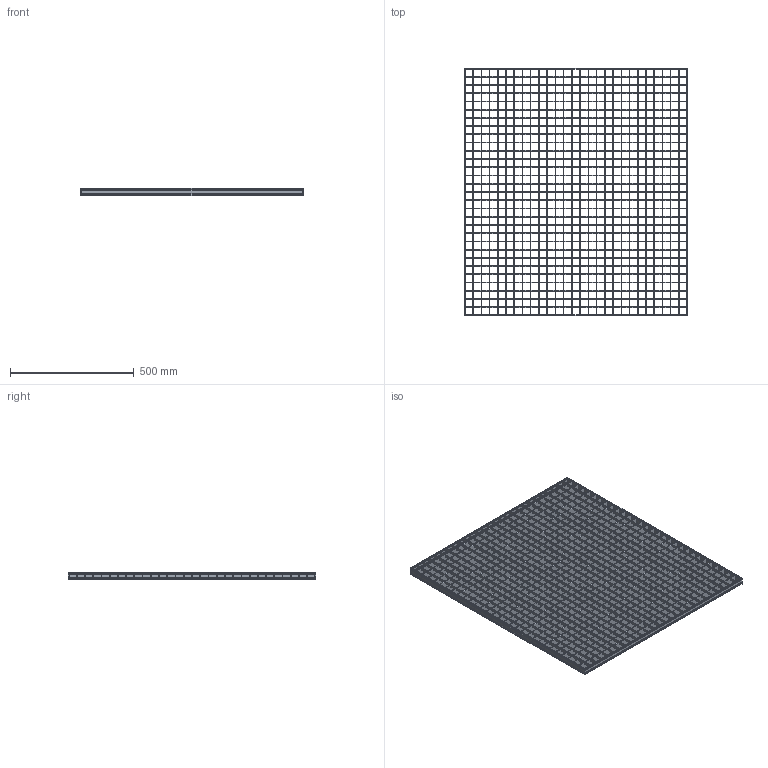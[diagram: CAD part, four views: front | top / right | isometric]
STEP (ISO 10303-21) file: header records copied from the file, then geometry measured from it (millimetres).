
FILE_DESCRIPTION(/* description */ ('STEP AP242','CAx-IF Rec.Pracs.---Representation and Presentation of Product Manufacturing Information (PMI)---4.0---2014-10-13','CAx-IF Rec.Pracs.---3D Tessellated Geometry---0.4---2014-09-14','2;1'),/* implementation_level */ '2;1');
FILE_NAME(/* name */ 'Lichtgitter_Pressure_locked_gratings P 330-33-3-1-1-900-1000_(350_0)',/* time_stamp */ '2026-04-22T16:02:46+02:00',/* author */ ('License CC BY-ND 4.0'),/* organization */ ('CADENAS'),/* preprocessor_version */ 'ST-DEVELOPER v20',/* originating_system */ 'PARTsolutions',/* authorisation */ ' ');
FILE_SCHEMA (('AP242_MANAGED_MODEL_BASED_3D_ENGINEERING_MIM_LF { 1 0 10303 442 1 1 4 }'));
Length unit declared in the file: millimetre
Products named in the file (5): Lichtgitter_Pressure_locked_gratings P 330-33-3-1-1-900-1000_(350_0); Lichtgitter P 330-33-3_(Pressroste_350_1_1000_900)_VERTICAL; Lichtgitter P 330-33-3_(Pressroste_350_1_1000_900)_HORIZONTAL_C; Lichtgitter P 330-33-3_(Pressroste_350_1_1000_900)_HORIZONTAL; Lichtgitter P 330-33-3_(Pressroste_350_1_1000_900)_VERTICAL_C
Assembly tree (59 placements, depth 2):
  Lichtgitter_Pressure_locked_gratings P 330-33-3-1-1-900-1000_(350_0)
    Lichtgitter P 330-33-3_(Pressroste_350_1_1000_900)_VERTICAL  x2
    Lichtgitter P 330-33-3_(Pressroste_350_1_1000_900)_HORIZONTAL_C  x29
    Lichtgitter P 330-33-3_(Pressroste_350_1_1000_900)_HORIZONTAL  x2
    Lichtgitter P 330-33-3_(Pressroste_350_1_1000_900)_VERTICAL_C  x26
Bounding box: 900 x 1000 x 30 mm (x, y, z)
Volume: 3135664.5 mm3; surface area: 2613842.5 mm2
Topology: 59 solids, 59 shells, 3418 faces, 9900 edges, 6600 vertices
Faces by surface type: plane 3386, cylinder 32
Entity records: 5427 total; most frequent: CARTESIAN_POINT 932, DIRECTION 888, ORIENTED_EDGE 864, EDGE_CURVE 432, LINE 400, VECTOR 400, VERTEX_POINT 288, AXIS2_PLACEMENT_3D 244
